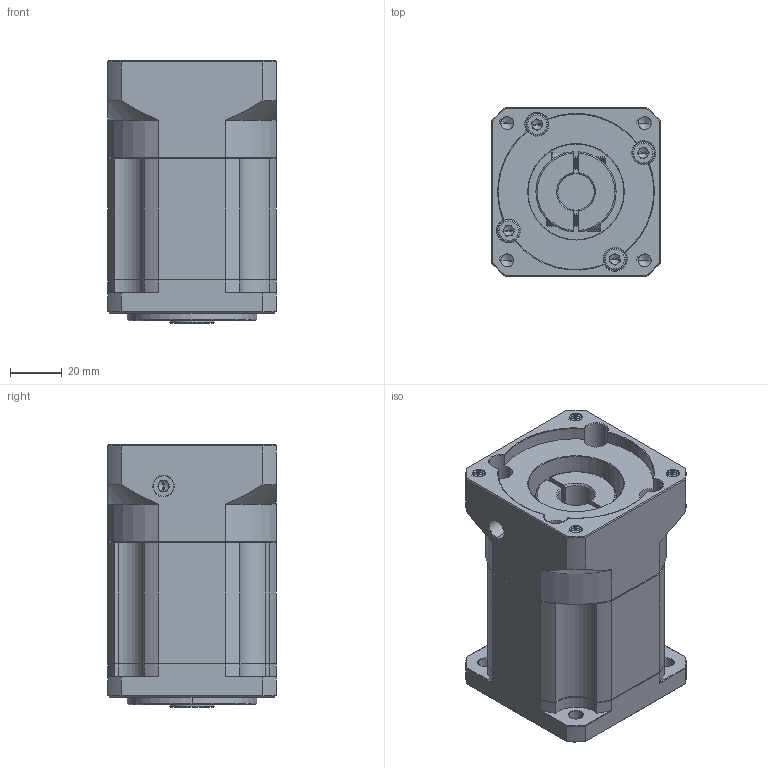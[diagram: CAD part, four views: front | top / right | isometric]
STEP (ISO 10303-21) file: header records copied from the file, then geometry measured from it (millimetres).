
FILE_DESCRIPTION (( 'STEP AP214' ), '1' );
FILE_NAME ('ZB60-K10-L2-14-60-75-M6.STEP', '2022-04-17T07:41:02', ( '' ), ( 'Microsoft' ), 'SwSTEP 2.0', 'SolidWorks 2016', '' );
FILE_SCHEMA (( 'AUTOMOTIVE_DESIGN' ));
Length unit declared in the file: millimetre
Products named in the file (1): ZB60-K10-L2-14-60-75-M6
Bounding box: 65 x 65 x 101.5 mm (x, y, z)
Volume: 317677.5 mm3; surface area: 57952.5 mm2
Topology: 6 solids, 6 shells, 1837 faces, 4878 edges, 3123 vertices
Faces by surface type: plane 876, cylinder 353, bspline 292, cone 282, torus 34
Entity records: 95823 total; most frequent: CARTESIAN_POINT 32049, ORIENTED_EDGE 9700, DIRECTION 8061, EDGE_CURVE 4850, VERTEX_POINT 3123, LINE 2995, VECTOR 2995, AXIS2_PLACEMENT_3D 2533
